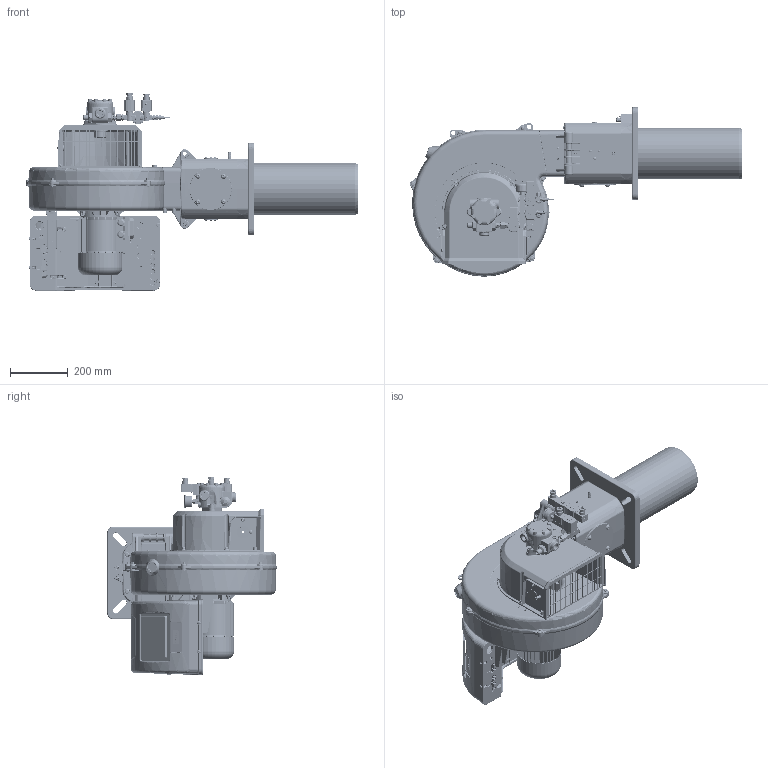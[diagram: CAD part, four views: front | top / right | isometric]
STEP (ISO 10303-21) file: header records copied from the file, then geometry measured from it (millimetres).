
FILE_DESCRIPTION(('STEP AP214'), '1');
FILE_NAME('GARANT-120 L òðóáà 360', '2023-09-20T20:51:44', ('Aleks'), ('1234'), 'ASCON STEP Converter 1.6', 'ASCON Math Kernel', '');
FILE_SCHEMA(('AUTOMOTIVE_DESIGN { 1 0 10303 214 3 1 1}'));
Length unit declared in the file: millimetre
Bounding box: 1151.56 x 587.81 x 685.03 mm (x, y, z)
Volume: 6288939.2 mm3; surface area: 4719136.1 mm2
Topology: 54 solids, 57 shells, 15941 faces, 40630 edges, 25557 vertices
Faces by surface type: plane 5790, cylinder 4201, bspline 2610, cone 1645, torus 1100, sphere 442, extrusion 153
Full cylindrical faces by diameter (mm): 1 x1, 1.7 x4, 2 x2, 2.5 x1, 2.6 x6, 2.8 x2, 2.9 x66, 3 x13, 3.2 x32, 3.5 x5, 4 x24, 4.2 x6, 4.5 x2, 4.8 x8, 5 x20, 5.2 x13, 5.5 x2, 5.6 x6, 6 x22, 6.3 x2, 6.5 x3, 6.8 x6, 7 x5, 7.2 x2, 7.5 x5, 8 x37, 8.5 x6, 8.55 x5, 8.553 x1, 8.6 x2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
Entity records: 908250 total; most frequent: CARTESIAN_POINT 554175, ORIENTED_EDGE 77024, DIRECTION 65178, EDGE_CURVE 38512, VERTEX_POINT 25473, AXIS2_PLACEMENT_3D 24480, EDGE_LOOP 19417, FACE_BOUND 17746
